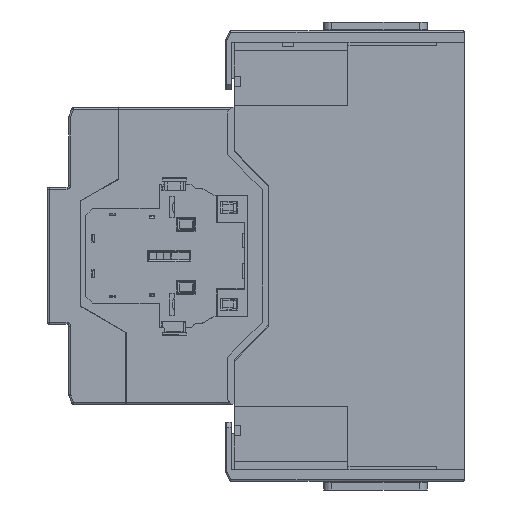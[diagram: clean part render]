
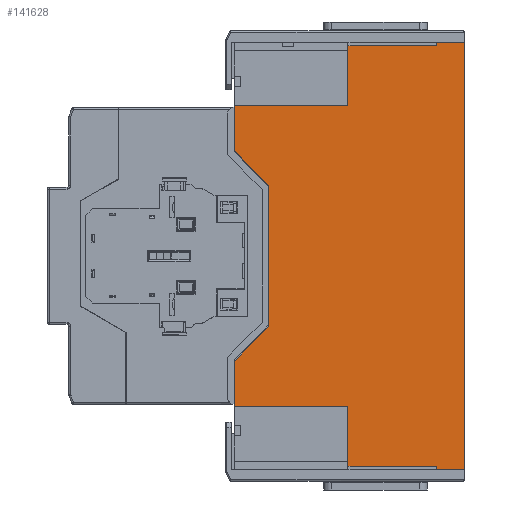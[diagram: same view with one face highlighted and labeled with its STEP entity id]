
A CAD part, left-side view. The second image highlights one B-rep face of the part: STEP entity #141628.
In plain terms, the highlighted planar face has unit normal (-1, 0, 0).
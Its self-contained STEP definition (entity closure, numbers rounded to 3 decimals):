
#2819 = VERTEX_POINT ( 'NONE', #43815 ) ;
#3416 = VECTOR ( 'NONE', #137369, 1000. ) ;
#6127 = EDGE_CURVE ( 'NONE', #10492, #46619, #22305, .T. ) ;
#6884 = VECTOR ( 'NONE', #37318, 1000. ) ;
#8468 = ORIENTED_EDGE ( 'NONE', *, *, #71167, .T. ) ;
#8633 = CARTESIAN_POINT ( 'NONE',  ( -55., 102.55, -46.8 ) ) ;
#9490 = DIRECTION ( 'NONE',  ( 0., -0.707, 0.707 ) ) ;
#9665 = VECTOR ( 'NONE', #163948, 1000. ) ;
#10492 = VERTEX_POINT ( 'NONE', #28883 ) ;
#10638 = DIRECTION ( 'NONE',  ( 0., 0., 1. ) ) ;
#12222 = VERTEX_POINT ( 'NONE', #87118 ) ;
#12230 = DIRECTION ( 'NONE',  ( 0., 1., 0. ) ) ;
#12435 = VECTOR ( 'NONE', #114286, 1000. ) ;
#12789 = ORIENTED_EDGE ( 'NONE', *, *, #59866, .F. ) ;
#14547 = VECTOR ( 'NONE', #15916, 1000. ) ;
#15848 = CARTESIAN_POINT ( 'NONE',  ( -55., 51.85, -67. ) ) ;
#15916 = DIRECTION ( 'NONE',  ( 0., 0., 1. ) ) ;
#20229 = CARTESIAN_POINT ( 'NONE',  ( -55., 51.85, 93.5 ) ) ;
#20788 = VECTOR ( 'NONE', #54472, 1000. ) ;
#20945 = CARTESIAN_POINT ( 'NONE',  ( -55., 102.55, 95. ) ) ;
#22305 = LINE ( 'NONE', #164802, #9665 ) ;
#25545 = CARTESIAN_POINT ( 'NONE',  ( -55., 12.55, 95. ) ) ;
#28883 = CARTESIAN_POINT ( 'NONE',  ( -55., 51.85, -93.5 ) ) ;
#33378 = ORIENTED_EDGE ( 'NONE', *, *, #83109, .F. ) ;
#33817 = EDGE_CURVE ( 'NONE', #64172, #70784, #170006, .T. ) ;
#34865 = VERTEX_POINT ( 'NONE', #101972 ) ;
#35051 = ORIENTED_EDGE ( 'NONE', *, *, #129719, .F. ) ;
#35589 = LINE ( 'NONE', #143762, #6884 ) ;
#37099 = LINE ( 'NONE', #78081, #20788 ) ;
#37318 = DIRECTION ( 'NONE',  ( 0., 0., 1. ) ) ;
#38356 = CARTESIAN_POINT ( 'NONE',  ( -55., 12.55, -95. ) ) ;
#40094 = VECTOR ( 'NONE', #123769, 1000. ) ;
#40933 = ORIENTED_EDGE ( 'NONE', *, *, #6127, .F. ) ;
#41866 = VECTOR ( 'NONE', #10638, 1000. ) ;
#43815 = CARTESIAN_POINT ( 'NONE',  ( -55., 102.55, -67. ) ) ;
#45279 = ORIENTED_EDGE ( 'NONE', *, *, #132182, .F. ) ;
#45992 = ORIENTED_EDGE ( 'NONE', *, *, #127937, .F. ) ;
#46619 = VERTEX_POINT ( 'NONE', #15848 ) ;
#48265 = DIRECTION ( 'NONE',  ( 1., 0., 0. ) ) ;
#49343 = CARTESIAN_POINT ( 'NONE',  ( -55., 12.55, 93.5 ) ) ;
#51124 = ORIENTED_EDGE ( 'NONE', *, *, #70355, .F. ) ;
#52422 = LINE ( 'NONE', #103050, #41866 ) ;
#54472 = DIRECTION ( 'NONE',  ( 0., 1., 0. ) ) ;
#56620 = CARTESIAN_POINT ( 'NONE',  ( -55., 102.55, -95. ) ) ;
#56798 = ORIENTED_EDGE ( 'NONE', *, *, #107144, .F. ) ;
#58637 = VECTOR ( 'NONE', #99188, 1000. ) ;
#59866 = EDGE_CURVE ( 'NONE', #12222, #120522, #162443, .T. ) ;
#61017 = DIRECTION ( 'NONE',  ( 0., -1., 0. ) ) ;
#61766 = LINE ( 'NONE', #8633, #135770 ) ;
#62333 = CARTESIAN_POINT ( 'NONE',  ( -55., 87., 31.25 ) ) ;
#62755 = LINE ( 'NONE', #20945, #80636 ) ;
#64172 = VERTEX_POINT ( 'NONE', #120552 ) ;
#66984 = CARTESIAN_POINT ( 'NONE',  ( -55., 87., -31.25 ) ) ;
#67253 = DIRECTION ( 'NONE',  ( 0., 0., -1. ) ) ;
#69381 = LINE ( 'NONE', #120026, #107379 ) ;
#70355 = EDGE_CURVE ( 'NONE', #70784, #12222, #75421, .T. ) ;
#70784 = VERTEX_POINT ( 'NONE', #90904 ) ;
#71167 = EDGE_CURVE ( 'NONE', #142345, #106179, #169264, .T. ) ;
#72715 = PLANE ( 'NONE',  #133672 ) ;
#74578 = VECTOR ( 'NONE', #129845, 1000. ) ;
#75421 = LINE ( 'NONE', #62333, #90214 ) ;
#78081 = CARTESIAN_POINT ( 'NONE',  ( -55., 51.85, -67. ) ) ;
#80636 = VECTOR ( 'NONE', #61017, 1000. ) ;
#83109 = EDGE_CURVE ( 'NONE', #141273, #127364, #52422, .T. ) ;
#83718 = EDGE_CURVE ( 'NONE', #10492, #105524, #153289, .T. ) ;
#86979 = CARTESIAN_POINT ( 'NONE',  ( -55., 12.55, -93.5 ) ) ;
#87118 = CARTESIAN_POINT ( 'NONE',  ( -55., 102.55, 46.8 ) ) ;
#87146 = EDGE_CURVE ( 'NONE', #104830, #142345, #110713, .T. ) ;
#87621 = CARTESIAN_POINT ( 'NONE',  ( -55., 12.55, -54.13 ) ) ;
#89791 = ORIENTED_EDGE ( 'NONE', *, *, #83718, .T. ) ;
#90214 = VECTOR ( 'NONE', #115550, 1000. ) ;
#90904 = CARTESIAN_POINT ( 'NONE',  ( -55., 87., 31.25 ) ) ;
#95496 = LINE ( 'NONE', #110339, #3416 ) ;
#97330 = ORIENTED_EDGE ( 'NONE', *, *, #33817, .F. ) ;
#98776 = ORIENTED_EDGE ( 'NONE', *, *, #87146, .T. ) ;
#99188 = DIRECTION ( 'NONE',  ( 0., -1., 0. ) ) ;
#101294 = ORIENTED_EDGE ( 'NONE', *, *, #101577, .T. ) ;
#101474 = CARTESIAN_POINT ( 'NONE',  ( -55., 102.55, -46.8 ) ) ;
#101577 = EDGE_CURVE ( 'NONE', #105524, #104830, #114657, .T. ) ;
#101972 = CARTESIAN_POINT ( 'NONE',  ( -55., 51.85, 67. ) ) ;
#103050 = CARTESIAN_POINT ( 'NONE',  ( -55., 12.55, 54.13 ) ) ;
#104830 = VERTEX_POINT ( 'NONE', #38356 ) ;
#105524 = VERTEX_POINT ( 'NONE', #117323 ) ;
#106179 = VERTEX_POINT ( 'NONE', #156734 ) ;
#107144 = EDGE_CURVE ( 'NONE', #127364, #106179, #62755, .T. ) ;
#107379 = VECTOR ( 'NONE', #133977, 1000. ) ;
#110339 = CARTESIAN_POINT ( 'NONE',  ( -55., 102.55, 67. ) ) ;
#110713 = LINE ( 'NONE', #56620, #40094 ) ;
#114286 = DIRECTION ( 'NONE',  ( 0., 0., 1. ) ) ;
#114534 = EDGE_CURVE ( 'NONE', #141273, #118593, #131698, .T. ) ;
#114657 = LINE ( 'NONE', #87621, #167370 ) ;
#115550 = DIRECTION ( 'NONE',  ( 0., 0.707, 0.707 ) ) ;
#116792 = CARTESIAN_POINT ( 'NONE',  ( -55., 102.55, 67. ) ) ;
#117323 = CARTESIAN_POINT ( 'NONE',  ( -55., 12.55, -93.5 ) ) ;
#118213 = VECTOR ( 'NONE', #12230, 1000. ) ;
#118593 = VERTEX_POINT ( 'NONE', #20229 ) ;
#120026 = CARTESIAN_POINT ( 'NONE',  ( -55., 51.85, 67. ) ) ;
#120522 = VERTEX_POINT ( 'NONE', #116792 ) ;
#120552 = CARTESIAN_POINT ( 'NONE',  ( -55., 87., -31.25 ) ) ;
#123769 = DIRECTION ( 'NONE',  ( 0., -1., 0. ) ) ;
#125918 = CARTESIAN_POINT ( 'NONE',  ( -55., 102.55, -95. ) ) ;
#127364 = VERTEX_POINT ( 'NONE', #25545 ) ;
#127937 = EDGE_CURVE ( 'NONE', #132945, #64172, #61766, .T. ) ;
#128242 = ORIENTED_EDGE ( 'NONE', *, *, #114534, .T. ) ;
#129719 = EDGE_CURVE ( 'NONE', #120522, #34865, #95496, .T. ) ;
#129845 = DIRECTION ( 'NONE',  ( 0., 0., 1. ) ) ;
#131698 = LINE ( 'NONE', #133418, #118213 ) ;
#132182 = EDGE_CURVE ( 'NONE', #2819, #132945, #35589, .T. ) ;
#132576 = EDGE_CURVE ( 'NONE', #46619, #2819, #37099, .T. ) ;
#132945 = VERTEX_POINT ( 'NONE', #101474 ) ;
#133418 = CARTESIAN_POINT ( 'NONE',  ( -55., 51.85, 93.5 ) ) ;
#133672 = AXIS2_PLACEMENT_3D ( 'NONE', #125918, #48265, #166085 ) ;
#133977 = DIRECTION ( 'NONE',  ( 0., 0., 1. ) ) ;
#135770 = VECTOR ( 'NONE', #9490, 1000. ) ;
#137369 = DIRECTION ( 'NONE',  ( 0., -1., 0. ) ) ;
#139683 = ORIENTED_EDGE ( 'NONE', *, *, #132576, .F. ) ;
#141273 = VERTEX_POINT ( 'NONE', #49343 ) ;
#141628 = ADVANCED_FACE ( 'NONE', ( #164379 ), #72715, .F. ) ;
#142345 = VERTEX_POINT ( 'NONE', #159666 ) ;
#143762 = CARTESIAN_POINT ( 'NONE',  ( -55., 102.55, -95. ) ) ;
#148482 = CARTESIAN_POINT ( 'NONE',  ( -55., 102.55, -95. ) ) ;
#151245 = EDGE_LOOP ( 'NONE', ( #128242, #154928, #35051, #12789, #51124, #97330, #45992, #45279, #139683, #40933, #89791, #101294, #98776, #8468, #56798, #33378 ) ) ;
#153289 = LINE ( 'NONE', #86979, #58637 ) ;
#154928 = ORIENTED_EDGE ( 'NONE', *, *, #158048, .F. ) ;
#156734 = CARTESIAN_POINT ( 'NONE',  ( -55., 0., 95. ) ) ;
#158048 = EDGE_CURVE ( 'NONE', #34865, #118593, #69381, .T. ) ;
#159666 = CARTESIAN_POINT ( 'NONE',  ( -55., 0., -95. ) ) ;
#162443 = LINE ( 'NONE', #148482, #14547 ) ;
#163948 = DIRECTION ( 'NONE',  ( 0., 0., 1. ) ) ;
#164379 = FACE_OUTER_BOUND ( 'NONE', #151245, .T. ) ;
#164802 = CARTESIAN_POINT ( 'NONE',  ( -55., 51.85, -91.3 ) ) ;
#166085 = DIRECTION ( 'NONE',  ( 0., 0., -1. ) ) ;
#167370 = VECTOR ( 'NONE', #67253, 1000. ) ;
#168390 = CARTESIAN_POINT ( 'NONE',  ( -55., 0., -95. ) ) ;
#169264 = LINE ( 'NONE', #168390, #12435 ) ;
#170006 = LINE ( 'NONE', #66984, #74578 ) ;
